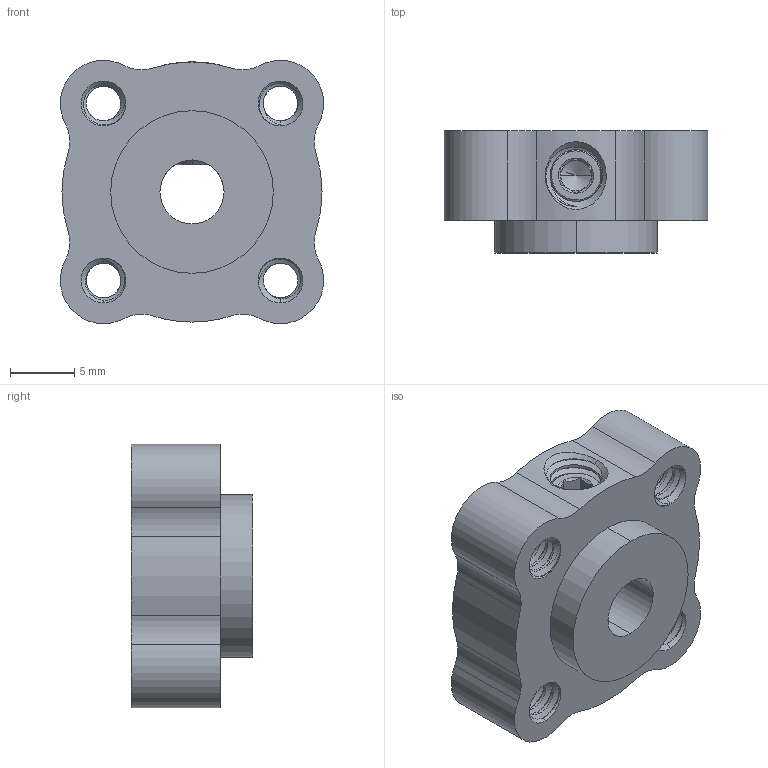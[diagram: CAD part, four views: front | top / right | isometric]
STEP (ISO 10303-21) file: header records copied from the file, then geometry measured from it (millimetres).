
FILE_DESCRIPTION (( 'STEP AP203' ), '1' );
FILE_NAME ('545572 assembly.STEP', '2017-06-30T21:06:36', ( '' ), ( '' ), 'SwSTEP 2.0', 'SolidWorks 2016', '' );
FILE_SCHEMA (( 'CONFIG_CONTROL_DESIGN' ));
Length unit declared in the file: inch
Products named in the file (3): 545572; 632138_91375A438; 545572 assembly
Assembly tree (2 placements, depth 2):
  545572 assembly
    545572
    632138_91375A438
Bounding box: 20.57 x 9.53 x 20.57 mm (x, y, z)
Volume: 2632.4 mm3; surface area: 2205.3 mm2
Topology: 2 solids, 2 shells, 314 faces, 884 edges, 573 vertices
Faces by surface type: cylinder 233, cone 44, bspline 21, plane 16
Entity records: 24624 total; most frequent: CARTESIAN_POINT 17597, ORIENTED_EDGE 1760, DIRECTION 1095, EDGE_CURVE 880, VERTEX_POINT 573, AXIS2_PLACEMENT_3D 416, EDGE_LOOP 329, ADVANCED_FACE 314
